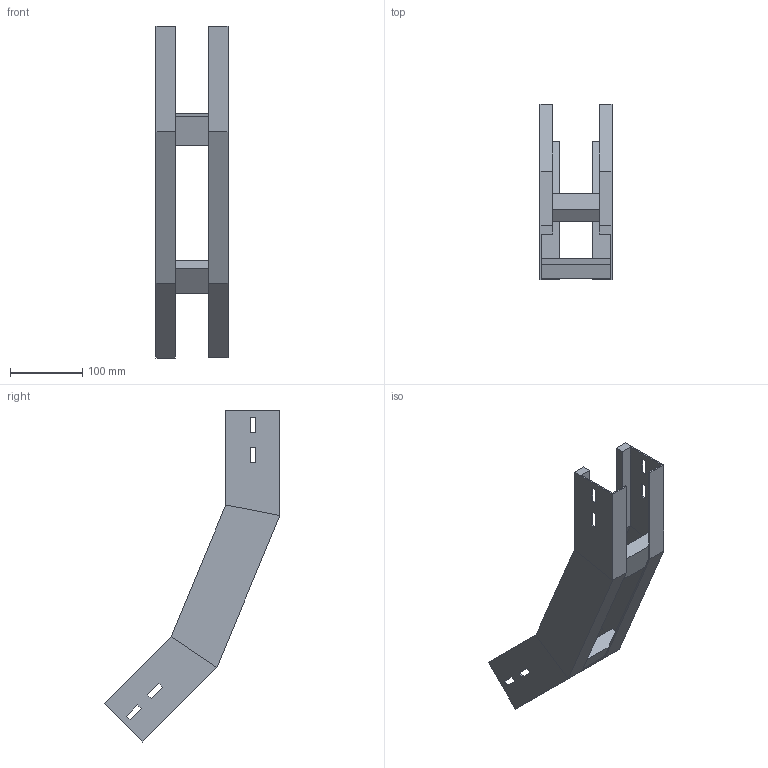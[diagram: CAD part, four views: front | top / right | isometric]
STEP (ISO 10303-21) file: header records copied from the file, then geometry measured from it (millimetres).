
FILE_DESCRIPTION (( 'STEP AP214' ), '1' );
FILE_NAME ('B2X31B5C100XX.step', '2025-03-20T10:10:45', ( '' ), ( '' ), 'SwSTEP 2.0', 'SolidWorks 2023', '' );
FILE_SCHEMA (( 'AUTOMOTIVE_DESIGN' ));
Length unit declared in the file: millimetre
Products named in the file (3): LONGH.SALITA_45°_H75_R500; B2X31B5C100XX; TRAVERSINO_100
Assembly tree (4 placements, depth 2):
  B2X31B5C100XX
    LONGH.SALITA_45°_H75_R500  x2
    TRAVERSINO_100  x2
Bounding box: 100 x 244.02 x 461.09 mm (x, y, z)
Volume: 531721.5 mm3; surface area: 259821.9 mm2
Topology: 4 solids, 4 shells, 96 faces, 232 edges, 144 vertices
Faces by surface type: plane 96
Entity records: 1472 total; most frequent: CARTESIAN_POINT 243, ORIENTED_EDGE 232, DIRECTION 226, LINE 116, VECTOR 116, EDGE_CURVE 116, VERTEX_POINT 72, EDGE_LOOP 56
